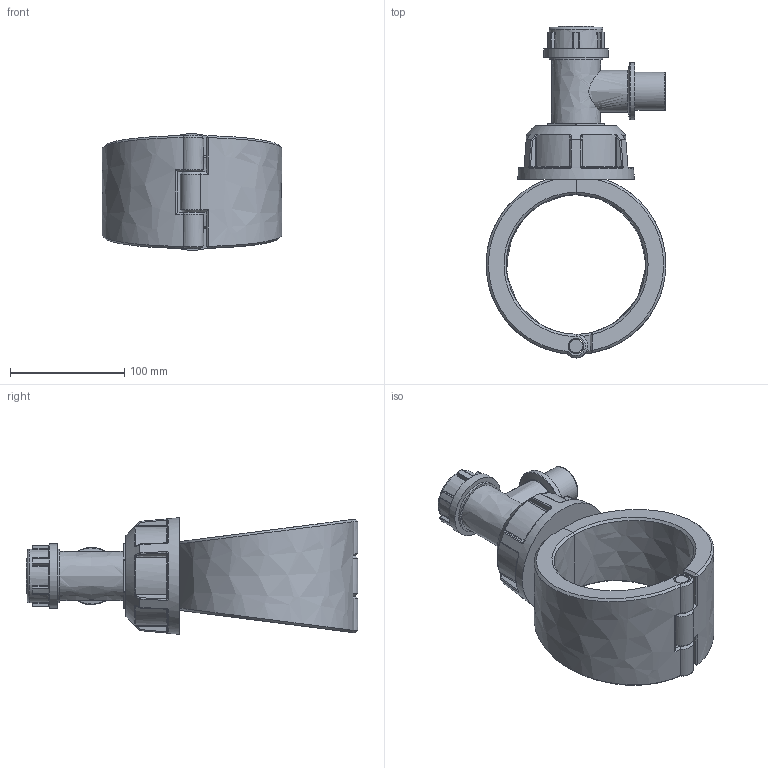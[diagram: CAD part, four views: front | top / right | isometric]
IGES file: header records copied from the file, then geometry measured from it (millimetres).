
Global section: file name: 1631R0122010; native system: Autodesk Inventor 2019; preprocessor: unknown; author: comp2; date: 20220203.120633; units: millimetre
Bounding box: 156.99 x 290 x 101.99 mm (x, y, z)
Volume: 1076584.8 mm3; surface area: 149156.9 mm2
Topology: 4 solids, 4 shells, 341 faces, 833 edges, 509 vertices
Faces by surface type: bspline 341
